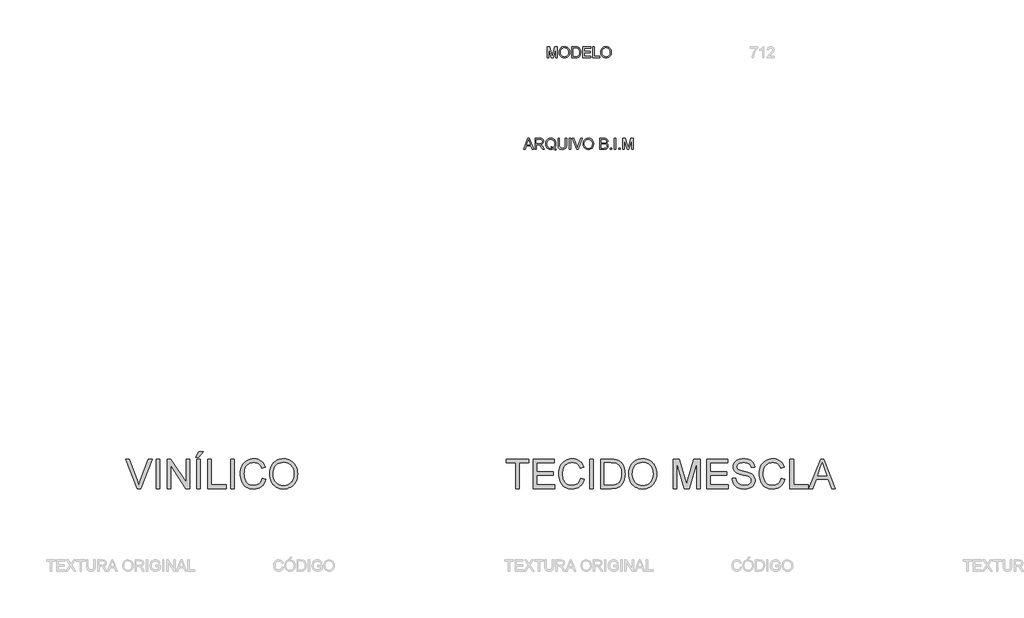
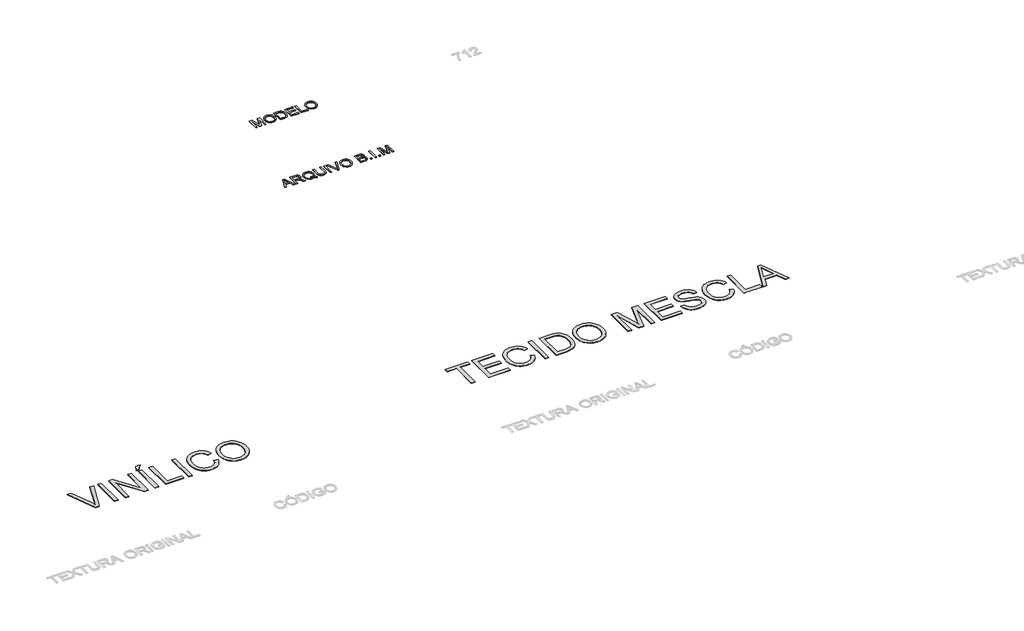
# One storey, part 8 of 19: 4 proxies.
"""IFC4 building model written with IfcOpenShell, lengths in millimetres."""

from ifc_helpers import new_model, si_unit, origin, origin_with_axes, place, context, project, spatial, polyline, outline, extrude, element, save

model = new_model("IFC4")

# Units and contexts
model_context = context("Model", 3, world=origin())
ifc_project = project(units=[si_unit("LENGTHUNIT", "METRE", prefix="MILLI")], contexts=[model_context])

# Site, building, storey
site = spatial("IfcSite", under=ifc_project)
building = spatial("IfcBuilding", under=site)
storey = spatial("IfcBuildingStorey", under=building, Name="Marelli - Linha ACTIVE - Planta Baixa", Elevation=0.0)

# Proxies
placement = place(None, origin())
element("IfcBuildingElementProxy", 1, Name="300mm Arial", ObjectType="300mm Arial", at=placement, inside=storey, context=model_context, shape_type="SweptSolid", body=[
    extrude(outline(polyline([(-5609.419598, -93280.5663201), (-5489.1221856, -92979.1973896), (-5457.0428756, -92979.1973896), (-5336.7454632, -93280.5663201), (-5376.550295, -93280.5663201), (-5411.0576262, -93186.3885293), (-5535.1810114, -93186.3885293), (-5569.6147661, -93280.5663201), (-5609.419598, -93280.5663201)]), holes=[polyline([(-5521.3486483, -93148.717413), (-5424.8164128, -93148.717413), (-5451.9661041, -93074.6259792), (-5473.0825306, -93016.8685059), (-5491.8445123, -93068.1512561), (-5521.3486483, -93148.717413)])]), origin_with_axes(), (0.0, 0.0, 1.0), 10.0),
    extrude(outline(polyline([(-5296.4991729, -93280.5663201), (-5296.4991729, -92979.1973896), (-5166.6368286, -92979.1973896), (-5131.7340243, -92981.2299376), (-5106.3409696, -92987.3275817), (-5087.7813229, -92998.5847708), (-5073.3787428, -93016.0959537), (-5064.1357077, -93037.8101885), (-5061.054696, -93061.6765329), (-5066.1590587, -93091.3646099), (-5081.4721467, -93115.9759154), (-5093.0719259, -93126.0052983), (-5107.4538126, -93134.0205273), (-5144.5639089, -93144.0085235), (-5123.1531768, -93160.1217548), (-5092.6189712, -93198.8965171), (-5042.3662906, -93280.5663201), (-5086.144248, -93280.5663201), (-5125.3604687, -93218.0999573), (-5153.6873824, -93176.750021), (-5173.5897983, -93157.2154871), (-5191.5056515, -93150.0417882), (-5213.357842, -93148.717413), (-5258.8280566, -93148.717413), (-5258.8280566, -93280.5663201), (-5296.4991729, -93280.5663201)]), holes=[polyline([(-5258.8280566, -93111.0462967), (-5174.5095033, -93111.0462967), (-5150.293671, -93109.7127245), (-5131.5040981, -93105.7120078), (-5117.3590353, -93098.7774322), (-5107.0767336, -93088.6422832), (-5100.8135426, -93076.3826157), (-5098.7258123, -93063.0744845), (-5102.7081349, -93044.6987789), (-5114.6551027, -93029.8915286), (-5135.2105092, -93020.1242616), (-5165.0181478, -93016.8685059), (-5258.8280566, -93016.8685059), (-5258.8280566, -93111.0462967)])]), origin_with_axes(), (0.0, 0.0, 1.0), 10.0),
    extrude(outline(polyline([(-4768.7356626, -93244.4403081), (-4744.4002686, -93263.036743), (-4722.0146492, -93275.8574305), (-4732.1681923, -93303.4485802), (-4763.2358268, -93289.0460001), (-4794.1930967, -93268.205485), (-4829.0499157, -93281.0077785), (-4867.4016137, -93285.2752096), (-4905.9372527, -93280.3547879), (-4940.7572836, -93265.5935229), (-4969.9211287, -93241.9203165), (-4991.4882107, -93210.2640708), (-5004.814736, -93172.3630282), (-5009.2569111, -93129.9554312), (-5004.823933, -93087.511046), (-4991.5249989, -93049.0581805), (-4970.0406904, -93016.9512794), (-4941.0515892, -92993.5447874), (-4906.360317, -92979.2525719), (-4867.7694957, -92974.4885001), (-4828.8751718, -92979.3629365), (-4794.0091557, -92993.9862458), (-4765.0660397, -93017.3835407), (-4743.9404161, -93048.5799339), (-4731.0277581, -93085.9199564), (-4726.7235388, -93127.7481393), (-4729.3355009, -93162.5313819), (-4737.1713874, -93193.5990164), (-4750.2863806, -93220.9142546), (-4768.7356626, -93244.4403081)]), holes=[polyline([(-4857.0273415, -93194.3347804), (-4825.3527017, -93206.3093393), (-4799.784903, -93222.9559996), (-4784.3016695, -93205.4816049), (-4773.2422171, -93184.1076609), (-4766.6065456, -93158.8341679), (-4764.3946551, -93129.6611256), (-4767.521652, -93096.5057608), (-4776.9026429, -93067.8201623), (-4792.3077015, -93044.3308969), (-4813.5069014, -93026.7645316), (-4839.065503, -93015.8108452), (-4867.5487665, -93012.1596164), (-4889.033075, -93014.0059242), (-4908.6043972, -93019.5448474), (-4926.2627329, -93028.7763863), (-4942.0080823, -93041.7005406), (-4954.9483315, -93058.2897193), (-4964.1913666, -93078.5163313), (-4969.7371877, -93102.3803764), (-4971.5857948, -93129.8818548), (-4969.7578811, -93156.6659634), (-4964.2741401, -93180.1437324), (-4955.1345718, -93200.3151621), (-4942.3391761, -93217.1802523), (-4926.7018921, -93230.4906827), (-4909.0366585, -93239.9981331), (-4889.3434755, -93245.7026032), (-4867.6223429, -93247.6040933), (-4846.7082515, -93245.6727128), (-4827.081747, -93239.8785714), (-4846.3771577, -93229.853787), (-4866.7394261, -93223.1767288), (-4857.0273415, -93194.3347804)])]), origin_with_axes(), (0.0, 0.0, 1.0), 10.0),
    extrude(outline(polyline([(-4472.4435037, -92979.1973896), (-4434.7723874, -92979.1973896), (-4434.7723874, -93153.0584205), (-4437.3291673, -93193.7737604), (-4444.9995069, -93225.1265034), (-4459.3285106, -93249.3147446), (-4481.8612828, -93268.5365788), (-4512.6530058, -93281.0905519), (-4551.7588619, -93285.2752096), (-4590.0093923, -93281.6331779), (-4620.5895832, -93270.7070826), (-4643.5086315, -93252.8740029), (-4658.7757343, -93228.5110178), (-4667.3565818, -93195.8338995), (-4670.2168643, -93153.0584205), (-4670.2168643, -92979.1973896), (-4632.545748, -92979.1973896), (-4632.545748, -93151.7340454), (-4630.6879439, -93185.588386), (-4625.1145317, -93209.1604248), (-4615.0161709, -93225.4851883), (-4599.5835212, -93237.597703), (-4579.4603761, -93245.1024957), (-4555.290529, -93247.6040933), (-4516.9756192, -93242.6560805), (-4502.6328199, -93236.4710644), (-4491.499791, -93227.812042), (-4483.1626653, -93215.6351479), (-4477.2075755, -93198.8965171), (-4472.4435037, -93151.7340454), (-4472.4435037, -92979.1973896)])), origin_with_axes(), (0.0, 0.0, 1.0), 10.0),
    extrude(outline(polyline([(-4364.1390443, -93280.5663201), (-4364.1390443, -92979.1973896), (-4326.467928, -92979.1973896), (-4326.467928, -93280.5663201), (-4364.1390443, -93280.5663201)])), origin_with_axes(), (0.0, 0.0, 1.0), 10.0),
    extrude(outline(polyline([(-4162.0982526, -93280.5663201), (-4282.027783, -92979.1973896), (-4241.7079163, -92979.1973896), (-4161.436065, -93196.3213432), (-4145.1756808, -93245.2496485), (-4129.1360258, -93196.3213432), (-4048.6434453, -92979.1973896), (-4008.3235786, -92979.1973896), (-4123.1763375, -93280.5663201), (-4162.0982526, -93280.5663201)])), origin_with_axes(), (0.0, 0.0, 1.0), 10.0),
    extrude(outline(polyline([(-3987.4278813, -93133.8549804), (-3984.9170866, -93098.5061192), (-3977.3847028, -93067.213157), (-3964.8307297, -93039.9760937), (-3947.2551674, -93016.7949295), (-3925.711078, -92998.2858666), (-3901.2515239, -92985.0651074), (-3873.8765049, -92977.1326519), (-3843.5860211, -92974.4885001), (-3804.0571008, -92979.454907), (-3768.6116705, -92994.3541278), (-3739.1811109, -93018.1376988), (-3717.6968024, -93049.7571563), (-3704.5634152, -93087.68579), (-3700.1856194, -93130.3968896), (-3704.7933414, -93173.6782064), (-3718.6165074, -93212.140269), (-3740.8917622, -93243.8149087), (-3770.8557507, -93266.733957), (-3805.9976783, -93280.6398965), (-3843.8067503, -93285.2752096), (-3883.942676, -93280.1524528), (-3919.5904413, -93264.7841825), (-3948.9474246, -93240.5591531), (-3970.2110039, -93208.8661192), (-3983.1236619, -93172.3998164), (-3987.4278813, -93133.8549804)]), holes=[polyline([(-3949.7567649, -93134.2228624), (-3947.873669, -93159.1974513), (-3942.2243811, -93181.3669401), (-3932.8089013, -93200.7313286), (-3919.6272295, -93217.2906169), (-3903.6036694, -93230.5527628), (-3885.6625243, -93240.0257242), (-3865.8037944, -93245.709501), (-3844.0274795, -93247.6040933), (-3821.8786842, -93245.6911069), (-3801.7854294, -93239.9521478), (-3783.7477154, -93230.3872159), (-3767.7655419, -93216.9963113), (-3754.6804392, -93200.0875351), (-3745.3339373, -93179.9689885), (-3739.7260361, -93156.6406715), (-3737.8567357, -93130.102584), (-3741.0573091, -93096.7540812), (-3750.6590292, -93067.9305269), (-3766.4135756, -93044.358488), (-3788.0726281, -93026.7645316), (-3814.2014468, -93015.8108452), (-3843.3652919, -93012.1596164), (-3864.3851494, -93013.9185522), (-3883.8874937, -93019.1953595), (-3901.8723248, -93027.9900385), (-3918.3396426, -93040.302589), (-3932.0846336, -93056.7262208), (-3941.9024844, -93077.8541437), (-3947.7931948, -93103.6863575), (-3949.7567649, -93134.2228624)])]), origin_with_axes(), (0.0, 0.0, 1.0), 10.0),
    extrude(outline(polyline([(-3530.665596, -93280.5663201), (-3530.665596, -92979.1973896), (-3415.6656844, -92979.1973896), (-3384.0370298, -92981.4138786), (-3359.3429509, -92988.0633457), (-3340.4154222, -92999.3113377), (-3326.0864185, -93015.3234015), (-3317.0641126, -93034.1589597), (-3314.0566773, -93053.8774346), (-3316.585866, -93072.0232141), (-3324.1734321, -93089.0837416), (-3336.874558, -93104.0105535), (-3354.7444259, -93115.7551862), (-3333.3980732, -93126.9020107), (-3317.6251326, -93143.8613707), (-3307.8854568, -93165.5112261), (-3304.6388982, -93190.7295368), (-3306.8553872, -93211.7447958), (-3313.5048543, -93231.2333445), (-3323.4284711, -93247.8064284), (-3335.4674094, -93260.0752929), (-3350.2102804, -93268.9596431), (-3368.2456952, -93275.3791839), (-3416.5486011, -93280.5663201), (-3530.665596, -93280.5663201)]), holes=[polyline([(-3492.9944797, -93101.6285176), (-3424.2005466, -93101.6285176), (-3384.0278328, -93098.3911561), (-3369.9655435, -93092.8085468), (-3359.8579857, -93084.4484284), (-3353.7603416, -93073.4395597), (-3351.7277936, -93059.9106994), (-3353.6223859, -93046.7773121), (-3359.3061627, -93035.3361821), (-3368.5216067, -93026.4058467), (-3381.0112004, -93020.8048433), (-3429.424471, -93016.8685059), (-3492.9944797, -93016.8685059), (-3492.9944797, -93101.6285176)]), polyline([(-3492.9944797, -93242.8952038), (-3415.7392607, -93242.8952038), (-3387.7802291, -93241.4236758), (-3364.1254168, -93233.2199073), (-3348.4536438, -93216.4812765), (-3343.8459218, -93204.6538704), (-3342.3100145, -93191.0974188), (-3344.1126363, -93175.3520694), (-3349.5205016, -93161.814012), (-3358.9658718, -93151.2282076), (-3372.8810083, -93144.3396173), (-3392.5902862, -93140.5596298), (-3419.4180807, -93139.2996339), (-3492.9944797, -93139.2996339), (-3492.9944797, -93242.8952038)])]), origin_with_axes(), (0.0, 0.0, 1.0), 10.0),
    extrude(outline(polyline([(-3248.1322237, -93280.5663201), (-3248.1322237, -93242.8952038), (-3210.4611074, -93242.8952038), (-3210.4611074, -93280.5663201), (-3248.1322237, -93280.5663201)])), origin_with_axes(), (0.0, 0.0, 1.0), 10.0),
    extrude(outline(polyline([(-3130.4099853, -93280.5663201), (-3130.4099853, -92979.1973896), (-3092.738869, -92979.1973896), (-3092.738869, -93280.5663201), (-3130.4099853, -93280.5663201)])), origin_with_axes(), (0.0, 0.0, 1.0), 10.0),
    extrude(outline(polyline([(-3012.6877468, -93280.5663201), (-3012.6877468, -93242.8952038), (-2975.0166305, -93242.8952038), (-2975.0166305, -93280.5663201), (-3012.6877468, -93280.5663201)])), origin_with_axes(), (0.0, 0.0, 1.0), 10.0),
    extrude(outline(polyline([(-2899.6743979, -93280.5663201), (-2899.6743979, -92979.1973896), (-2834.8535904, -92979.1973896), (-2773.196568, -93191.6124536), (-2760.7621565, -93235.9790223), (-2747.2976755, -93187.9336337), (-2686.6707227, -92979.1973896), (-2621.8499152, -92979.1973896), (-2621.8499152, -93280.5663201), (-2659.5210315, -93280.5663201), (-2659.5210315, -93016.8685059), (-2735.2311461, -93280.5663201), (-2786.293167, -93280.5663201), (-2862.0032816, -93016.8685059), (-2862.0032816, -93280.5663201), (-2899.6743979, -93280.5663201)])), origin_with_axes(), (0.0, 0.0, 1.0), 10.0),
])
element("IfcBuildingElementProxy", 2, Name="300mm Arial", ObjectType="300mm Arial", at=placement, inside=storey, context=model_context, shape_type="SweptSolid", body=[
    extrude(outline(polyline([(-4966.8769052, -90780.5663201), (-4966.8769052, -90479.1973896), (-4902.0560977, -90479.1973896), (-4840.3990753, -90691.6124536), (-4827.9646638, -90735.9790223), (-4814.5001828, -90687.9336337), (-4753.87323, -90479.1973896), (-4689.0524225, -90479.1973896), (-4689.0524225, -90780.5663201), (-4726.7235388, -90780.5663201), (-4726.7235388, -90516.8685059), (-4802.4336534, -90780.5663201), (-4853.4956743, -90780.5663201), (-4929.2057889, -90516.8685059), (-4929.2057889, -90780.5663201), (-4966.8769052, -90780.5663201)])), origin_with_axes(), (0.0, 0.0, 1.0), 10.0),
    extrude(outline(polyline([(-4637.2546375, -90633.8549804), (-4634.7438429, -90598.5061192), (-4627.2114591, -90567.213157), (-4614.657486, -90539.9760937), (-4597.0819237, -90516.7949295), (-4575.5378343, -90498.2858666), (-4551.0782802, -90485.0651074), (-4523.7032612, -90477.1326519), (-4493.4127774, -90474.4885001), (-4453.883857, -90479.454907), (-4418.4384268, -90494.3541278), (-4389.0078672, -90518.1376988), (-4367.5235587, -90549.7571563), (-4354.3901714, -90587.68579), (-4350.0123757, -90630.3968896), (-4354.6200977, -90673.6782064), (-4368.4432637, -90712.140269), (-4390.7185185, -90743.8149087), (-4420.682507, -90766.733957), (-4455.8244346, -90780.6398965), (-4493.6335066, -90785.2752096), (-4533.7694323, -90780.1524528), (-4569.4171976, -90764.7841825), (-4598.7741808, -90740.5591531), (-4620.0377602, -90708.8661192), (-4632.9504182, -90672.3998164), (-4637.2546375, -90633.8549804)]), holes=[polyline([(-4599.5835212, -90634.2228624), (-4597.7004253, -90659.1974513), (-4592.0511374, -90681.3669401), (-4582.6356576, -90700.7313286), (-4569.4539858, -90717.2906169), (-4553.4304257, -90730.5527628), (-4535.4892806, -90740.0257242), (-4515.6305507, -90745.709501), (-4493.8542358, -90747.6040933), (-4471.7054404, -90745.6911069), (-4451.6121857, -90739.9521478), (-4433.5744716, -90730.3872159), (-4417.5922982, -90716.9963113), (-4404.5071955, -90700.0875351), (-4395.1606936, -90679.9689885), (-4389.5527924, -90656.6406715), (-4387.683492, -90630.102584), (-4390.8840654, -90596.7540812), (-4400.4857854, -90567.9305269), (-4416.2403319, -90544.358488), (-4437.8993843, -90526.7645316), (-4464.0282031, -90515.8108452), (-4493.1920482, -90512.1596164), (-4514.2119057, -90513.9185522), (-4533.71425, -90519.1953595), (-4551.699081, -90527.9900385), (-4568.1663988, -90540.302589), (-4581.9113899, -90556.7262208), (-4591.7292406, -90577.8541437), (-4597.6199511, -90603.6863575), (-4599.5835212, -90634.2228624)])]), origin_with_axes(), (0.0, 0.0, 1.0), 10.0),
    extrude(outline(polyline([(-4298.2145908, -90780.5663201), (-4298.2145908, -90479.1973896), (-4194.2511389, -90479.1973896), (-4140.4667912, -90483.5383972), (-4116.444097, -90491.9077126), (-4096.173799, -90505.0962821), (-4075.333284, -90528.0521186), (-4060.4892455, -90556.5997614), (-4051.6048953, -90590.1873876), (-4048.6434453, -90628.2631741), (-4050.6484021, -90660.6091985), (-4056.6632727, -90689.0740679), (-4065.8235344, -90713.3082943), (-4077.2646645, -90732.9623899), (-4090.4348399, -90748.477813), (-4104.7822377, -90760.2960221), (-4121.254154, -90769.0608107), (-4140.797885, -90775.4159721), (-4189.2479438, -90780.5663201), (-4298.2145908, -90780.5663201)]), holes=[polyline([(-4260.5434745, -90742.8952038), (-4193.8832569, -90742.8952038), (-4166.3105014, -90741.5340404), (-4145.39641, -90737.4505502), (-4129.6142724, -90730.8838566), (-4117.4373783, -90722.0730828), (-4104.3499764, -90705.7667134), (-4094.5183301, -90684.6594839), (-4088.3655037, -90658.6594239), (-4086.3145616, -90627.6745629), (-4090.3336724, -90586.6189322), (-4102.3910047, -90556.3054558), (-4120.2056904, -90535.4833349), (-4141.4968608, -90522.9017706), (-4163.1651104, -90518.3768221), (-4194.9133265, -90516.8685059), (-4260.5434745, -90516.8685059), (-4260.5434745, -90742.8952038)])]), origin_with_axes(), (0.0, 0.0, 1.0), 10.0),
    extrude(outline(polyline([(-3996.8456603, -90780.5663201), (-3996.8456603, -90479.1973896), (-3780.2367416, -90479.1973896), (-3780.2367416, -90516.8685059), (-3959.174544, -90516.8685059), (-3959.174544, -90606.3374072), (-3789.6545206, -90606.3374072), (-3789.6545206, -90644.0085235), (-3959.174544, -90644.0085235), (-3959.174544, -90742.8952038), (-3775.527852, -90742.8952038), (-3775.527852, -90780.5663201), (-3996.8456603, -90780.5663201)])), origin_with_axes(), (0.0, 0.0, 1.0), 10.0),
    extrude(outline(polyline([(-3719.0211776, -90780.5663201), (-3719.0211776, -90479.1973896), (-3681.3500613, -90479.1973896), (-3681.3500613, -90742.8952038), (-3530.665596, -90742.8952038), (-3530.665596, -90780.5663201), (-3719.0211776, -90780.5663201)])), origin_with_axes(), (0.0, 0.0, 1.0), 10.0),
    extrude(outline(polyline([(-3502.4122588, -90633.8549804), (-3499.9014642, -90598.5061192), (-3492.3690803, -90567.213157), (-3479.8151073, -90539.9760937), (-3462.2395449, -90516.7949295), (-3440.6954556, -90498.2858666), (-3416.2359014, -90485.0651074), (-3388.8608825, -90477.1326519), (-3358.5703987, -90474.4885001), (-3319.0414783, -90479.454907), (-3283.5960481, -90494.3541278), (-3254.1654885, -90518.1376988), (-3232.6811799, -90549.7571563), (-3219.5477927, -90587.68579), (-3215.169997, -90630.3968896), (-3219.777719, -90673.6782064), (-3233.6008849, -90712.140269), (-3255.8761397, -90743.8149087), (-3285.8401283, -90766.733957), (-3320.9820558, -90780.6398965), (-3358.7911279, -90785.2752096), (-3398.9270536, -90780.1524528), (-3434.5748189, -90764.7841825), (-3463.9318021, -90740.5591531), (-3485.1953814, -90708.8661192), (-3498.1080395, -90672.3998164), (-3502.4122588, -90633.8549804)]), holes=[polyline([(-3464.7411425, -90634.2228624), (-3462.8580465, -90659.1974513), (-3457.2087587, -90681.3669401), (-3447.7932788, -90700.7313286), (-3434.6116071, -90717.2906169), (-3418.5880469, -90730.5527628), (-3400.6469019, -90740.0257242), (-3380.7881719, -90745.709501), (-3359.0118571, -90747.6040933), (-3336.8630617, -90745.6911069), (-3316.769807, -90739.9521478), (-3298.7320929, -90730.3872159), (-3282.7499195, -90716.9963113), (-3269.6648168, -90700.0875351), (-3260.3183148, -90679.9689885), (-3254.7104137, -90656.6406715), (-3252.8411133, -90630.102584), (-3256.0416866, -90596.7540812), (-3265.6434067, -90567.9305269), (-3281.3979532, -90544.358488), (-3303.0570056, -90526.7645316), (-3329.1858243, -90515.8108452), (-3358.3496695, -90512.1596164), (-3379.369527, -90513.9185522), (-3398.8718713, -90519.1953595), (-3416.8567023, -90527.9900385), (-3433.3240201, -90540.302589), (-3447.0690112, -90556.7262208), (-3456.8868619, -90577.8541437), (-3462.7775724, -90603.6863575), (-3464.7411425, -90634.2228624)])]), origin_with_axes(), (0.0, 0.0, 1.0), 10.0),
])
element("IfcBuildingElementProxy", 3, Name="800mm Arial", ObjectType="800mm Arial", at=placement, inside=storey, context=model_context, shape_type="SweptSolid", body=[
    extrude(outline(polyline([(-5826.1035727, -102530.5663201), (-5826.1035727, -101831.101209), (-6088.4029894, -101831.101209), (-6088.4029894, -101731.1776217), (-5463.8805688, -101731.1776217), (-5463.8805688, -101831.101209), (-5726.1799854, -101831.101209), (-5726.1799854, -102530.5663201), (-5826.1035727, -102530.5663201)])), origin_with_axes(), (0.0, 0.0, 1.0), 10.0),
    extrude(outline(polyline([(-5351.4665331, -102530.5663201), (-5351.4665331, -101731.1776217), (-4776.9059062, -101731.1776217), (-4776.9059062, -101831.101209), (-5251.5429458, -101831.101209), (-5251.5429458, -102068.4197288), (-4801.886803, -102068.4197288), (-4801.886803, -102168.3433161), (-5251.5429458, -102168.3433161), (-5251.5429458, -102430.6427328), (-4764.4154577, -102430.6427328), (-4764.4154577, -102530.5663201), (-5351.4665331, -102530.5663201)])), origin_with_axes(), (0.0, 0.0, 1.0), 10.0),
    extrude(outline(polyline([(-4052.4598983, -102246.4086187), (-3952.536311, -102272.1701686), (-3972.3087884, -102334.3113692), (-3998.6436303, -102388.6094464), (-4031.5408367, -102435.0644003), (-4071.0004076, -102473.6762308), (-4116.1319107, -102504.030216), (-4166.0449135, -102525.7116341), (-4220.7394161, -102538.7204849), (-4280.2154185, -102543.0567685), (-4341.1490465, -102539.7755862), (-4396.1179975, -102529.9320395), (-4445.1222714, -102513.5261282), (-4488.1618683, -102490.5578525), (-4525.8283768, -102461.368748), (-4558.7133855, -102426.3003503), (-4586.8168944, -102385.3526596), (-4610.1389035, -102338.5256757), (-4628.4537554, -102287.8442176), (-4641.5357924, -102235.3331039), (-4649.3850146, -102180.9923347), (-4652.001422, -102124.8219099), (-4649.0434789, -102064.5530568), (-4640.1696496, -102008.260655), (-4625.3799341, -101955.9447046), (-4604.6743324, -101907.6052055), (-4578.5163571, -101864.0411074), (-4547.3695212, -101826.0513598), (-4511.2338245, -101793.6359626), (-4470.109267, -101766.794916), (-4425.3924859, -101745.7477786), (-4378.4801182, -101730.714109), (-4329.3721638, -101721.6939072), (-4278.0686227, -101718.6871733), (-4220.9162828, -101722.5782407), (-4168.5088496, -101734.251443), (-4120.8463231, -101753.7067801), (-4077.9287032, -101780.9442521), (-4040.4634569, -101815.2441944), (-4009.1580508, -101855.8869426), (-3984.0124849, -101902.8724966), (-3965.0267594, -101956.2008564), (-4064.9503467, -101980.0107737), (-4080.6853842, -101940.7158718), (-4099.5918247, -101907.1416928), (-4121.6696681, -101879.2882368), (-4146.9189144, -101857.1555038), (-4175.4859361, -101840.2921786), (-4207.5171055, -101828.2469464), (-4243.0124228, -101821.0198071), (-4281.9718878, -101818.6107606), (-4326.7984483, -101821.2820577), (-4367.7949299, -101829.2959489), (-4404.9613325, -101842.6524343), (-4438.2976562, -101861.3515138), (-4467.3830803, -101884.5515459), (-4491.7967839, -101911.410889), (-4511.5387671, -101941.9295433), (-4526.6090298, -101976.1075085), (-4537.751632, -102012.3956765), (-4545.7106335, -102049.2449389), (-4550.4860344, -102086.6552956), (-4552.0778347, -102124.6267467), (-4550.1932896, -102172.3441629), (-4544.539654, -102216.938967), (-4535.116928, -102258.411159), (-4521.9251116, -102296.7607389), (-4504.7507451, -102331.2253502), (-4483.3803685, -102361.0426365), (-4457.8139819, -102386.2125977), (-4428.0515853, -102406.7352339), (-4395.5386065, -102422.6593358), (-4361.7204735, -102434.0336944), (-4326.5971862, -102440.8583095), (-4290.1687446, -102443.1331812), (-4246.7266235, -102440.0349645), (-4206.7608479, -102430.7403144), (-4170.2714178, -102415.2492309), (-4137.2583332, -102393.5617141), (-4108.5022471, -102365.7753454), (-4084.7838126, -102331.9877067), (-4066.1030297, -102292.1987977), (-4052.4598983, -102246.4086187)])), origin_with_axes(), (0.0, 0.0, 1.0), 10.0),
    extrude(outline(polyline([(-3802.65093, -102530.5663201), (-3802.65093, -101731.1776217), (-3702.7273428, -101731.1776217), (-3702.7273428, -102530.5663201), (-3802.65093, -102530.5663201)])), origin_with_axes(), (0.0, 0.0, 1.0), 10.0),
    extrude(outline(polyline([(-3502.8801682, -102530.5663201), (-3502.8801682, -101731.1776217), (-3227.1144868, -101731.1776217), (-3144.7068018, -101734.0562798), (-3084.4501464, -101742.6922539), (-3051.345579, -101752.1942649), (-3020.7293432, -101764.8920743), (-2992.6014388, -101780.785682), (-2966.961866, -101799.875088), (-2937.3336441, -101828.4665051), (-2911.6818736, -101860.766024), (-2890.0065545, -101896.7736448), (-2872.3076866, -101936.4893675), (-2858.5608748, -101979.5472609), (-2848.7417234, -102025.5813941), (-2842.8502326, -102074.5917668), (-2840.8864024, -102126.5783793), (-2846.2046011, -102212.3770259), (-2862.1591973, -102287.8808107), (-2886.4570227, -102352.1627083), (-2916.8049091, -102404.2956932), (-2951.739132, -102445.4507449), (-2989.795967, -102476.7988429), (-3033.488141, -102500.0476658), (-3085.328381, -102516.9048921), (-3145.4142686, -102527.1509631), (-3213.8433854, -102530.5663201), (-3502.8801682, -102530.5663201)]), holes=[polyline([(-3402.9565809, -102430.6427328), (-3226.1386706, -102430.6427328), (-3153.0012402, -102427.0322125), (-3097.5260846, -102416.2006518), (-3055.6635661, -102398.7823312), (-3023.3640471, -102375.4115312), (-3004.9272182, -102355.3768032), (-2988.6493829, -102332.1584745), (-2974.5305411, -102305.7565452), (-2962.5706927, -102276.1710153), (-2953.0503851, -102243.3408963), (-2946.2501654, -102207.2051996), (-2940.8099896, -102125.0170732), (-2943.4751879, -102067.0047952), (-2951.4707825, -102016.1159761), (-2964.7967736, -101972.3506159), (-2983.4531612, -101935.7087145), (-3005.9274299, -101905.3608281), (-3030.7070646, -101880.4775129), (-3057.7920653, -101861.0587689), (-3087.182432, -101847.104596), (-3112.5780507, -101840.1031142), (-3144.658011, -101835.1020558), (-3228.8709561, -101831.101209), (-3402.9565809, -101831.101209), (-3402.9565809, -102430.6427328)])]), origin_with_axes(), (0.0, 0.0, 1.0), 10.0),
    extrude(outline(polyline([(-2740.9628151, -102141.4107867), (-2739.2978285, -102093.1841164), (-2734.3028689, -102047.6470397), (-2725.9779363, -102004.7995567), (-2714.3230306, -101964.6416672), (-2699.3381518, -101927.1733714), (-2681.0232999, -101892.3946692), (-2659.378475, -101860.3055607), (-2634.4036771, -101830.9060458), (-2606.7972245, -101804.6047475), (-2577.257436, -101781.8102891), (-2545.7843115, -101762.5226704), (-2512.377851, -101746.7418914), (-2477.0380544, -101734.4679523), (-2439.7649219, -101725.7008528), (-2400.5584533, -101720.4405932), (-2359.4186487, -101718.6871733), (-2305.6389739, -101721.9805533), (-2254.5671892, -101731.8606931), (-2206.2032947, -101748.3275929), (-2160.5472904, -101771.3812526), (-2118.8799352, -101800.326403), (-2082.4819879, -101834.4677752), (-2051.3534485, -101873.8053691), (-2025.494317, -101918.3391846), (-2005.1729429, -101967.0568125), (-1990.6576757, -102018.9458433), (-1981.9485154, -102074.0062771), (-1979.045462, -102132.2381137), (-1982.1009867, -102191.2384057), (-1991.2675609, -102247.0428993), (-2006.5451846, -102299.6515946), (-2027.9338577, -102349.0644916), (-2054.9273756, -102393.976436), (-2087.0195336, -102433.0822735), (-2124.2103316, -102466.3820041), (-2166.4997698, -102493.8756279), (-2212.2228614, -102515.3923769), (-2259.7146201, -102530.7614833), (-2308.9750458, -102539.9829472), (-2360.0041385, -102543.0567685), (-2414.7230365, -102539.659708), (-2466.4656949, -102529.4685268), (-2515.2321136, -102512.4832246), (-2561.0222926, -102488.7038016), (-2602.6408571, -102459.0511843), (-2638.892432, -102424.4462994), (-2669.7770173, -102384.8891468), (-2695.2946131, -102340.3797267), (-2715.2744514, -102292.7050024), (-2729.5457646, -102243.6519377), (-2738.1085524, -102193.2205325), (-2740.9628151, -102141.4107867)]), holes=[polyline([(-2641.0392278, -102142.386603), (-2636.0442682, -102208.6323309), (-2621.0593894, -102267.4374596), (-2596.0845914, -102318.8019891), (-2561.1198743, -102362.7259195), (-2518.6169763, -102397.9040965), (-2471.027636, -102423.0313658), (-2418.3518533, -102438.1077273), (-2360.5896283, -102443.1331812), (-2301.8393892, -102438.0589365), (-2248.5415237, -102422.8362025), (-2200.6960316, -102397.4649792), (-2158.302913, -102361.9452665), (-2139.7090387, -102340.5840382), (-2123.5943476, -102317.0943106), (-2098.8025152, -102263.7293577), (-2083.9274157, -102201.8504077), (-2078.9690492, -102131.4574607), (-2081.0914497, -102085.7282701), (-2087.4586509, -102042.9997147), (-2098.070653, -102003.2717943), (-2112.9274559, -101966.544509), (-2131.8643906, -101933.299668), (-2154.7167882, -101904.0190807), (-2181.4846485, -101878.702747), (-2212.1679718, -101857.350667), (-2245.8153369, -101840.401958), (-2281.4753232, -101828.2957372), (-2319.1479305, -101821.0320048), (-2358.833159, -101818.6107606), (-2414.5888618, -101823.2763822), (-2466.3193225, -101837.273247), (-2514.0245409, -101860.601355), (-2557.7045173, -101893.2607062), (-2577.23609, -101913.4829739), (-2594.1634531, -101936.8248043), (-2608.4866065, -101963.2861974), (-2620.2055501, -101992.8671532), (-2629.3202841, -102025.5676716), (-2635.8308084, -102061.3877528), (-2641.0392278, -102142.386603)])]), origin_with_axes(), (0.0, 0.0, 1.0), 10.0),
    extrude(outline(polyline([(-1529.3893191, -102530.5663201), (-1529.3893191, -101731.1776217), (-1357.4504902, -101731.1776217), (-1193.9036813, -102294.613943), (-1160.921091, -102412.2973867), (-1125.2062151, -102284.8557802), (-964.3916918, -101731.1776217), (-792.4528629, -101731.1776217), (-792.4528629, -102530.5663201), (-892.3764501, -102530.5663201), (-892.3764501, -101831.101209), (-1093.199441, -102530.5663201), (-1228.642741, -102530.5663201), (-1429.4657318, -101831.101209), (-1429.4657318, -102530.5663201), (-1529.3893191, -102530.5663201)])), origin_with_axes(), (0.0, 0.0, 1.0), 10.0),
    extrude(outline(polyline([(-617.5865851, -102530.5663201), (-617.5865851, -101731.1776217), (-43.0259582, -101731.1776217), (-43.0259582, -101831.101209), (-517.6629978, -101831.101209), (-517.6629978, -102068.4197288), (-68.006855, -102068.4197288), (-68.006855, -102168.3433161), (-517.6629978, -102168.3433161), (-517.6629978, -102430.6427328), (-30.5355097, -102430.6427328), (-30.5355097, -102530.5663201), (-617.5865851, -102530.5663201)])), origin_with_axes(), (0.0, 0.0, 1.0), 10.0),
    extrude(outline(polyline([(81.878526, -102255.776455), (181.8021132, -102255.776455), (193.2679546, -102311.2272152), (202.4772207, -102334.8724635), (214.0040506, -102355.7976239), (228.4339338, -102374.4235172), (246.3523603, -102391.1709642), (267.75933, -102406.0399648), (292.6548429, -102419.030519), (320.1240712, -102429.5754337), (349.2521873, -102437.1075156), (412.4850824, -102443.1331812), (468.1554012, -102438.5712401), (516.8974245, -102424.8854167), (556.3935886, -102403.2222952), (571.805387, -102389.8292168), (584.3263296, -102374.7284598), (600.9396018, -102342.014219), (606.4773592, -102307.6898812), (602.33014, -102274.2437782), (589.8884824, -102245.3352208), (579.4228528, -102232.5093355), (564.6148407, -102220.6714643), (521.9716692, -102199.9597637), (469.2044038, -102184.2735169), (376.4774615, -102161.805347), (280.9694429, -102136.5561007), (219.8589483, -102112.5266248), (193.1764718, -102096.6086217), (170.1167133, -102078.9097539), (150.6796727, -102059.4300213), (134.8653501, -102038.1694241), (122.6127569, -102015.3475208), (113.8609046, -101991.1838701), (108.6097932, -101965.678472), (106.8594228, -101938.8313266), (109.0245152, -101909.0750288), (115.5197923, -101880.306745), (126.3452542, -101852.5264753), (141.5009008, -101825.7342195), (160.8159643, -101801.0216721), (184.1196769, -101779.4805277), (211.4120386, -101761.1107862), (242.6930493, -101745.9124476), (276.9076076, -101734.0013901), (313.0006124, -101725.4934919), (350.9720635, -101720.388753), (390.8219609, -101718.6871733), (434.2945763, -101720.468038), (475.1324877, -101725.8106322), (513.3356951, -101734.7149558), (548.9041986, -101747.1810088), (581.1793221, -101763.0990119), (609.5023897, -101782.3591857), (633.8734014, -101804.9615304), (654.2923571, -101830.9060458), (670.6006867, -101859.4364743), (682.6398201, -101889.7965584), (690.4097572, -101921.986298), (693.9104981, -101956.0056931), (593.9869108, -101956.0056931), (587.3025693, -101924.1208961), (575.6415647, -101896.3833183), (559.0038971, -101872.7929597), (537.3895665, -101853.3498203), (510.3960486, -101838.1514817), (477.6208192, -101827.2955255), (439.0638783, -101820.7819518), (394.725226, -101818.6107606), (348.9716401, -101820.7575564), (309.8780003, -101827.1979439), (277.4443066, -101837.931923), (251.6705591, -101852.9594937), (232.0322564, -101871.0242927), (218.0048973, -101890.8699563), (209.5884819, -101912.4964847), (206.7830101, -101935.9038777), (208.7712357, -101956.0422862), (214.7359128, -101974.3022484), (224.6770411, -101990.6837643), (238.5946209, -102005.1868338), (260.5016964, -102018.9214479), (294.996802, -102032.8024345), (401.7511032, -102061.0035251), (511.9207615, -102087.789682), (578.5690136, -102111.160482), (609.203546, -102128.2250692), (635.532289, -102147.4120569), (657.5552428, -102168.7214449), (675.2724071, -102192.1532334), (688.8911431, -102217.5854453), (698.6188117, -102244.8961035), (704.4554128, -102274.085208), (706.4009465, -102305.1527589), (704.1626679, -102336.4093742), (697.4478321, -102366.7511617), (686.2564392, -102396.1781215), (670.588489, -102424.6902535), (650.7184299, -102451.1836655), (626.9207104, -102474.5544655), (599.1953302, -102494.8026533), (567.5422896, -102511.9282291), (532.882515, -102525.5469651), (496.1369331, -102535.2746336), (457.305544, -102541.1112348), (416.3883475, -102543.0567685), (365.2738708, -102540.9587635), (318.489579, -102534.6647485), (276.0354718, -102524.1747234), (237.9115495, -102509.4886884), (203.8860555, -102490.5822479), (173.7272335, -102467.4310066), (147.4350836, -102440.0349645), (125.0096056, -102408.3941215), (106.9448067, -102373.5330849), (93.7346938, -102336.4764615), (85.3792669, -102297.2242516), (81.878526, -102255.776455)])), origin_with_axes(), (0.0, 0.0, 1.0), 10.0),
    extrude(outline(polyline([(1418.356506, -102246.4086187), (1518.2800933, -102272.1701686), (1498.5076159, -102334.3113692), (1472.172774, -102388.6094464), (1439.2755675, -102435.0644003), (1399.8159966, -102473.6762308), (1354.6844936, -102504.030216), (1304.7714908, -102525.7116341), (1250.0769881, -102538.7204849), (1190.6009857, -102543.0567685), (1129.6673578, -102539.7755862), (1074.6984068, -102529.9320395), (1025.6941329, -102513.5261282), (982.654536, -102490.5578525), (944.9880275, -102461.368748), (912.1030188, -102426.3003503), (883.9995099, -102385.3526596), (860.6775007, -102338.5256757), (842.3626489, -102287.8442176), (829.2806119, -102235.3331039), (821.4313896, -102180.9923347), (818.8149822, -102124.8219099), (821.7729253, -102064.5530568), (830.6467547, -102008.260655), (845.4364702, -101955.9447046), (866.1420719, -101907.6052055), (892.3000471, -101864.0411074), (923.4468831, -101826.0513598), (959.5825798, -101793.6359626), (1000.7071372, -101766.794916), (1045.4239184, -101745.7477786), (1092.3362861, -101730.714109), (1141.4442405, -101721.6939072), (1192.7477816, -101718.6871733), (1249.9001214, -101722.5782407), (1302.3075546, -101734.251443), (1349.9700812, -101753.7067801), (1392.887701, -101780.9442521), (1430.3529474, -101815.2441944), (1461.6583535, -101855.8869426), (1486.8039193, -101902.8724966), (1505.7896449, -101956.2008564), (1405.8660576, -101980.0107737), (1390.13102, -101940.7158718), (1371.2245796, -101907.1416928), (1349.1467362, -101879.2882368), (1323.8974899, -101857.1555038), (1295.3304682, -101840.2921786), (1263.2992988, -101828.2469464), (1227.8039815, -101821.0198071), (1188.8445164, -101818.6107606), (1144.017956, -101821.2820577), (1103.0214744, -101829.2959489), (1065.8550718, -101842.6524343), (1032.518748, -101861.3515138), (1003.433324, -101884.5515459), (979.0196204, -101911.410889), (959.2776372, -101941.9295433), (944.2073745, -101976.1075085), (933.0647723, -102012.3956765), (925.1057708, -102049.2449389), (920.3303698, -102086.6552956), (918.7385695, -102124.6267467), (920.6231147, -102172.3441629), (926.2767503, -102216.938967), (935.6994763, -102258.411159), (948.8912927, -102296.7607389), (966.0656592, -102331.2253502), (987.4360358, -102361.0426365), (1013.0024224, -102386.2125977), (1042.764819, -102406.7352339), (1075.2777977, -102422.6593358), (1109.0959308, -102434.0336944), (1144.2192181, -102440.8583095), (1180.6476597, -102443.1331812), (1224.0897808, -102440.0349645), (1264.0555564, -102430.7403144), (1300.5449865, -102415.2492309), (1333.5580711, -102393.5617141), (1362.3141571, -102365.7753454), (1386.0325917, -102331.9877067), (1404.7133746, -102292.1987977), (1418.356506, -102246.4086187)])), origin_with_axes(), (0.0, 0.0, 1.0), 10.0),
    extrude(outline(polyline([(1655.6750258, -102530.5663201), (1655.6750258, -101731.1776217), (1755.5986131, -101731.1776217), (1755.5986131, -102430.6427328), (2155.2929623, -102430.6427328), (2155.2929623, -102530.5663201), (1655.6750258, -102530.5663201)])), origin_with_axes(), (0.0, 0.0, 1.0), 10.0),
    extrude(outline(polyline([(2174.6141247, -102530.5663201), (2493.7060489, -101731.1776217), (2578.7972287, -101731.1776217), (2897.889153, -102530.5663201), (2792.3058313, -102530.5663201), (2700.774264, -102280.7573518), (2371.5338504, -102280.7573518), (2280.1974464, -102530.5663201), (2174.6141247, -102530.5663201)]), holes=[polyline([(2408.2245426, -102180.8337645), (2664.2787351, -102180.8337645), (2592.2634934, -101984.3043653), (2536.2516388, -101831.101209), (2486.4850084, -101967.1299988), (2408.2245426, -102180.8337645)])]), origin_with_axes(), (0.0, 0.0, 1.0), 10.0),
])
element("IfcBuildingElementProxy", 4, Name="800mm Arial", ObjectType="800mm Arial", at=placement, inside=storey, context=model_context, shape_type="SweptSolid", body=[
    extrude(outline(polyline([(-16147.6913044, -102530.5663201), (-16465.8074124, -101731.1776217), (-16358.8579479, -101731.1776217), (-16145.9348351, -102307.1043915), (-16102.8037555, -102436.887957), (-16060.2581656, -102307.1043915), (-15846.749563, -101731.1776217), (-15739.8000985, -101731.1776217), (-16044.4499418, -102530.5663201), (-16147.6913044, -102530.5663201)])), origin_with_axes(), (0.0, 0.0, 1.0), 10.0),
    extrude(outline(polyline([(-15634.41194, -102530.5663201), (-15634.41194, -101731.1776217), (-15534.4883527, -101731.1776217), (-15534.4883527, -102530.5663201), (-15634.41194, -102530.5663201)])), origin_with_axes(), (0.0, 0.0, 1.0), 10.0),
    extrude(outline(polyline([(-15334.6411782, -102530.5663201), (-15334.6411782, -101731.1776217), (-15227.6917136, -101731.1776217), (-14810.0423449, -102364.4823888), (-14810.0423449, -101731.1776217), (-14710.1187576, -101731.1776217), (-14710.1187576, -102530.5663201), (-14817.0682221, -102530.5663201), (-15234.7175909, -101897.0663897), (-15234.7175909, -102530.5663201), (-15334.6411782, -102530.5663201)])), origin_with_axes(), (0.0, 0.0, 1.0), 10.0),
    extrude(outline(polyline([(-14522.7620314, -102530.5663201), (-14522.7620314, -101731.1776217), (-14422.8384441, -101731.1776217), (-14422.8384441, -102530.5663201), (-14522.7620314, -102530.5663201)])), origin_with_axes(), (0.0, 0.0, 1.0), 10.0),
    extrude(outline(polyline([(-14547.7429282, -101681.2158281), (-14472.8002378, -101531.3304471), (-14347.8957536, -101531.3304471), (-14472.8002378, -101681.2158281), (-14547.7429282, -101681.2158281)])), origin_with_axes(), (0.0, 0.0, 1.0), 10.0),
    extrude(outline(polyline([(-14222.9912695, -102530.5663201), (-14222.9912695, -101731.1776217), (-14123.0676822, -101731.1776217), (-14123.0676822, -102430.6427328), (-13723.3733331, -102430.6427328), (-13723.3733331, -102530.5663201), (-14222.9912695, -102530.5663201)])), origin_with_axes(), (0.0, 0.0, 1.0), 10.0),
    extrude(outline(polyline([(-13598.4688489, -102530.5663201), (-13598.4688489, -101731.1776217), (-13498.5452616, -101731.1776217), (-13498.5452616, -102530.5663201), (-13598.4688489, -102530.5663201)])), origin_with_axes(), (0.0, 0.0, 1.0), 10.0),
    extrude(outline(polyline([(-12736.6279085, -102246.4086187), (-12636.7043212, -102272.1701686), (-12656.4767987, -102334.3113692), (-12682.8116406, -102388.6094464), (-12715.708847, -102435.0644003), (-12755.1684179, -102473.6762308), (-12800.299921, -102504.030216), (-12850.2129238, -102525.7116341), (-12904.9074264, -102538.7204849), (-12964.3834288, -102543.0567685), (-13025.3170568, -102539.7755862), (-13080.2860077, -102529.9320395), (-13129.2902816, -102513.5261282), (-13172.3298785, -102490.5578525), (-13209.996387, -102461.368748), (-13242.8813957, -102426.3003503), (-13270.9849046, -102385.3526596), (-13294.3069138, -102338.5256757), (-13312.6217656, -102287.8442176), (-13325.7038027, -102235.3331039), (-13333.5530249, -102180.9923347), (-13336.1694323, -102124.8219099), (-13333.2114892, -102064.5530568), (-13324.3376599, -102008.260655), (-13309.5479443, -101955.9447046), (-13288.8423426, -101907.6052055), (-13262.6843674, -101864.0411074), (-13231.5375314, -101826.0513598), (-13195.4018347, -101793.6359626), (-13154.2772773, -101766.794916), (-13109.5604962, -101745.7477786), (-13062.6481284, -101730.714109), (-13013.540174, -101721.6939072), (-12962.236633, -101718.6871733), (-12905.0842931, -101722.5782407), (-12852.6768599, -101734.251443), (-12805.0143334, -101753.7067801), (-12762.0967135, -101780.9442521), (-12724.6314671, -101815.2441944), (-12693.326061, -101855.8869426), (-12668.1804952, -101902.8724966), (-12649.1947697, -101956.2008564), (-12749.118357, -101980.0107737), (-12764.8533945, -101940.7158718), (-12783.759835, -101907.1416928), (-12805.8376784, -101879.2882368), (-12831.0869247, -101857.1555038), (-12859.6539463, -101840.2921786), (-12891.6851158, -101828.2469464), (-12927.180433, -101821.0198071), (-12966.1398981, -101818.6107606), (-13010.9664586, -101821.2820577), (-13051.9629401, -101829.2959489), (-13089.1293428, -101842.6524343), (-13122.4656665, -101861.3515138), (-13151.5510906, -101884.5515459), (-13175.9647942, -101911.410889), (-13195.7067773, -101941.9295433), (-13210.77704, -101976.1075085), (-13221.9196422, -102012.3956765), (-13229.8786438, -102049.2449389), (-13234.6540447, -102086.6552956), (-13236.245845, -102124.6267467), (-13234.3612998, -102172.3441629), (-13228.7076642, -102216.938967), (-13219.2849382, -102258.411159), (-13206.0931219, -102296.7607389), (-13188.9187553, -102331.2253502), (-13167.5483787, -102361.0426365), (-13141.9819921, -102386.2125977), (-13112.2195955, -102406.7352339), (-13079.7066168, -102422.6593358), (-13045.8884838, -102434.0336944), (-13010.7651965, -102440.8583095), (-12974.3367549, -102443.1331812), (-12930.8946338, -102440.0349645), (-12890.9288582, -102430.7403144), (-12854.4394281, -102415.2492309), (-12821.4263435, -102393.5617141), (-12792.6702574, -102365.7753454), (-12768.9518229, -102331.9877067), (-12750.2710399, -102292.1987977), (-12736.6279085, -102246.4086187)])), origin_with_axes(), (0.0, 0.0, 1.0), 10.0),
    extrude(outline(polyline([(-12536.780734, -102141.4107867), (-12535.1157474, -102093.1841164), (-12530.1207878, -102047.6470397), (-12521.7958552, -102004.7995567), (-12510.1409495, -101964.6416672), (-12495.1560707, -101927.1733714), (-12476.8412188, -101892.3946692), (-12455.1963939, -101860.3055607), (-12430.2215959, -101830.9060458), (-12402.6151434, -101804.6047475), (-12373.0753549, -101781.8102891), (-12341.6022304, -101762.5226704), (-12308.1957699, -101746.7418914), (-12272.8559733, -101734.4679523), (-12235.5828408, -101725.7008528), (-12196.3763722, -101720.4405932), (-12155.2365676, -101718.6871733), (-12101.4568928, -101721.9805533), (-12050.3851081, -101731.8606931), (-12002.0212136, -101748.3275929), (-11956.3652093, -101771.3812526), (-11914.6978541, -101800.326403), (-11878.2999068, -101834.4677752), (-11847.1713674, -101873.8053691), (-11821.3122359, -101918.3391846), (-11800.9908618, -101967.0568125), (-11786.4755946, -102018.9458433), (-11777.7664343, -102074.0062771), (-11774.8633808, -102132.2381137), (-11777.9189056, -102191.2384057), (-11787.0854798, -102247.0428993), (-11802.3631034, -102299.6515946), (-11823.7517766, -102349.0644916), (-11850.7452945, -102393.976436), (-11882.8374525, -102433.0822735), (-11920.0282505, -102466.3820041), (-11962.3176886, -102493.8756279), (-12008.0407803, -102515.3923769), (-12055.532539, -102530.7614833), (-12104.7929647, -102539.9829472), (-12155.8220574, -102543.0567685), (-12210.5409554, -102539.659708), (-12262.2836138, -102529.4685268), (-12311.0500325, -102512.4832246), (-12356.8402115, -102488.7038016), (-12398.458776, -102459.0511843), (-12434.7103508, -102424.4462994), (-12465.5949362, -102384.8891468), (-12491.1125319, -102340.3797267), (-12511.0923703, -102292.7050024), (-12525.3636835, -102243.6519377), (-12533.9264713, -102193.2205325), (-12536.780734, -102141.4107867)]), holes=[polyline([(-12436.8571467, -102142.386603), (-12431.8621871, -102208.6323309), (-12416.8773083, -102267.4374596), (-12391.9025103, -102318.8019891), (-12356.9377932, -102362.7259195), (-12314.4348952, -102397.9040965), (-12266.8455549, -102423.0313658), (-12214.1697722, -102438.1077273), (-12156.4075472, -102443.1331812), (-12097.6573081, -102438.0589365), (-12044.3594426, -102422.8362025), (-11996.5139505, -102397.4649792), (-11954.1208319, -102361.9452665), (-11935.5269576, -102340.5840382), (-11919.4122665, -102317.0943106), (-11894.6204341, -102263.7293577), (-11879.7453346, -102201.8504077), (-11874.7869681, -102131.4574607), (-11876.9093686, -102085.7282701), (-11883.2765698, -102042.9997147), (-11893.8885719, -102003.2717943), (-11908.7453748, -101966.544509), (-11927.6823095, -101933.299668), (-11950.534707, -101904.0190807), (-11977.3025674, -101878.702747), (-12007.9858907, -101857.350667), (-12041.6332558, -101840.401958), (-12077.2932421, -101828.2957372), (-12114.9658494, -101821.0320048), (-12154.6510779, -101818.6107606), (-12210.4067807, -101823.2763822), (-12262.1372413, -101837.273247), (-12309.8424598, -101860.601355), (-12353.5224362, -101893.2607062), (-12373.0540089, -101913.4829739), (-12389.981372, -101936.8248043), (-12404.3045254, -101963.2861974), (-12416.023469, -101992.8671532), (-12425.138203, -102025.5676716), (-12431.6487273, -102061.3877528), (-12436.8571467, -102142.386603)])]), origin_with_axes(), (0.0, 0.0, 1.0), 10.0),
])

save(model, "model.ifc")
